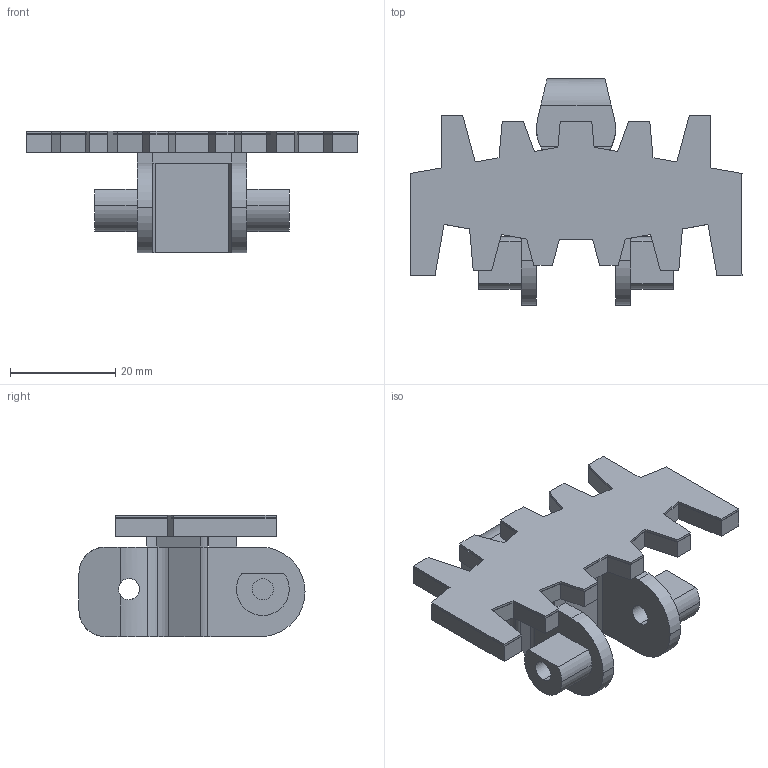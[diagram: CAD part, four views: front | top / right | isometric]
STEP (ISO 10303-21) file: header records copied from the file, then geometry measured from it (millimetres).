
FILE_DESCRIPTION (( 'STEP AP214' ), '1' );
FILE_NAME ('FSFC-5.STEP', '2011-07-06T07:44:11', ( '.' ), ( '' ), 'SwSTEP 2.0', 'SolidWorks 2010', '' );
FILE_SCHEMA (( 'AUTOMOTIVE_DESIGN' ));
Length unit declared in the file: millimetre
Products named in the file (1): FSFC-5
Bounding box: 63 x 42.9 x 23 mm (x, y, z)
Volume: 13639.7 mm3; surface area: 11385.6 mm2
Topology: 8 solids, 8 shells, 170 faces, 463 edges, 308 vertices
Faces by surface type: plane 135, cylinder 35
Entity records: 6010 total; most frequent: CARTESIAN_POINT 1052, ORIENTED_EDGE 926, DIRECTION 853, EDGE_CURVE 463, VECTOR 391, LINE 391, VERTEX_POINT 308, AXIS2_PLACEMENT_3D 231
